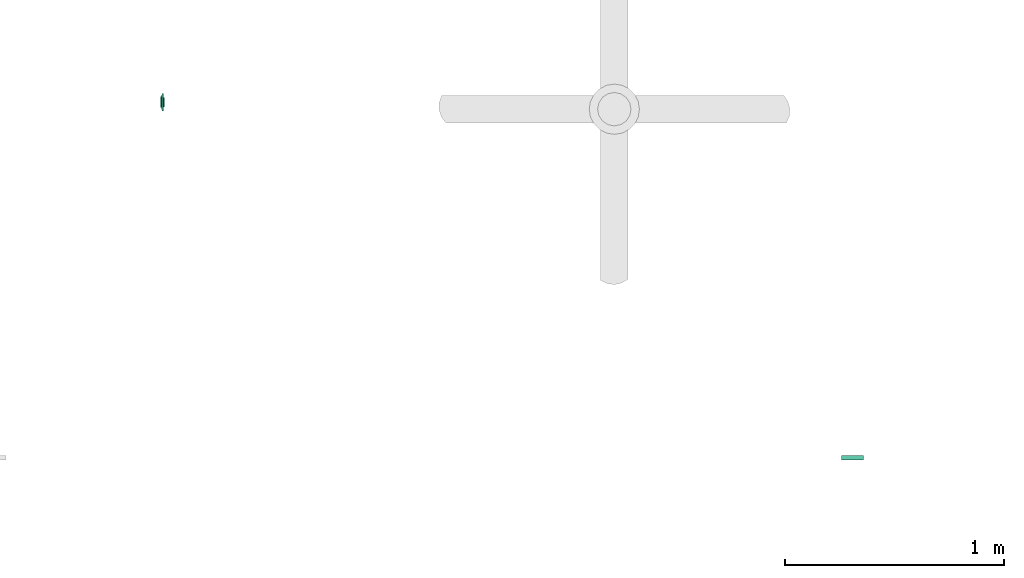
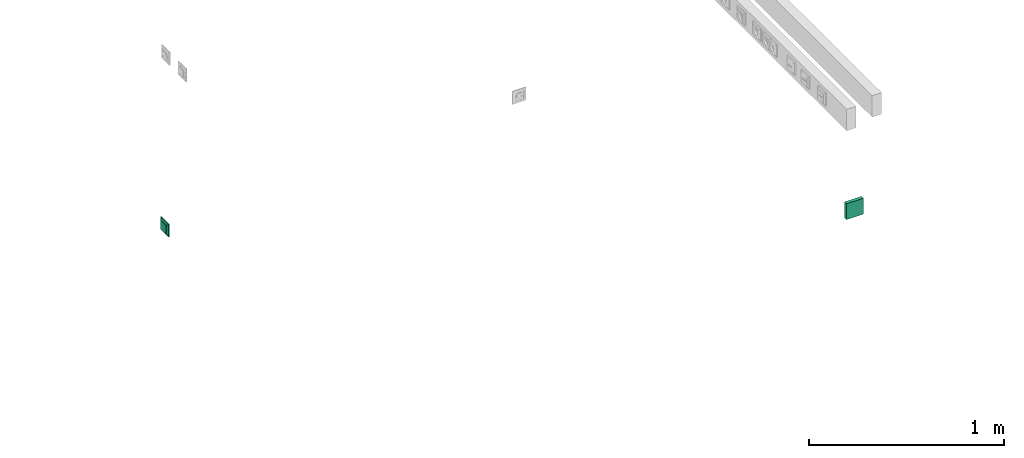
# One storey, part 86 of 166: 2 flow terminals.
"""IFC2X3 building model written with IfcOpenShell, lengths in metres."""

from ifc_helpers import new_model, entity, si_unit, converted_unit, derived_unit, direction, frame, origin, origin_2d_with_axis, place, context, subcontext, project, spatial, rectangle, extrude, faceted_brep, source, transform, mapped, type_object, type_shapes, element, save


model = new_model("IFC2X3")

# Units and contexts
model_context = context("Model", 3, precision=1e-05, world=origin(), true_north=direction((6.12303176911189e-17, 1.0)))
body_context = subcontext(model_context, "Body", "Model", "MODEL_VIEW")
ifc_project = project(units=[si_unit("LENGTHUNIT", "METRE"), si_unit("AREAUNIT", "SQUARE_METRE"), si_unit("VOLUMEUNIT", "CUBIC_METRE"), converted_unit("PLANEANGLEUNIT", "DEGREE", entity("IfcRatioMeasure", 0.0174532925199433), si_unit("PLANEANGLEUNIT", "RADIAN"), dimensions=[0, 0, 0, 0, 0, 0, 0]), si_unit("MASSUNIT", "GRAM", prefix="KILO"), derived_unit("MASSDENSITYUNIT", [(si_unit("MASSUNIT", "GRAM", prefix="KILO"), 1), (si_unit("LENGTHUNIT", "METRE"), -3)]), si_unit("TIMEUNIT", "SECOND"), si_unit("FREQUENCYUNIT", "HERTZ"), si_unit("THERMODYNAMICTEMPERATUREUNIT", "DEGREE_CELSIUS"), derived_unit("THERMALTRANSMITTANCEUNIT", [(si_unit("MASSUNIT", "GRAM", prefix="KILO"), 1), (si_unit("THERMODYNAMICTEMPERATUREUNIT", "KELVIN"), -1), (si_unit("TIMEUNIT", "SECOND"), -3)]), derived_unit("VOLUMETRICFLOWRATEUNIT", [(si_unit("LENGTHUNIT", "METRE"), 3), (si_unit("TIMEUNIT", "SECOND"), -1)]), si_unit("ELECTRICCURRENTUNIT", "AMPERE"), si_unit("ELECTRICVOLTAGEUNIT", "VOLT"), si_unit("POWERUNIT", "WATT"), si_unit("FORCEUNIT", "NEWTON"), si_unit("ILLUMINANCEUNIT", "LUX"), si_unit("LUMINOUSFLUXUNIT", "LUMEN"), si_unit("LUMINOUSINTENSITYUNIT", "CANDELA"), derived_unit("USERDEFINED", [(si_unit("MASSUNIT", "GRAM", prefix="KILO"), -1), (si_unit("LENGTHUNIT", "METRE"), -2), (si_unit("TIMEUNIT", "SECOND"), 3), (si_unit("LUMINOUSFLUXUNIT", "LUMEN"), 1)]), derived_unit("LINEARVELOCITYUNIT", [(si_unit("LENGTHUNIT", "METRE"), 1), (si_unit("TIMEUNIT", "SECOND"), -1)]), si_unit("PRESSUREUNIT", "PASCAL"), derived_unit("USERDEFINED", [(si_unit("LENGTHUNIT", "METRE"), -2), (si_unit("MASSUNIT", "GRAM", prefix="KILO"), 1), (si_unit("TIMEUNIT", "SECOND"), -2)])], contexts=[model_context])

# Site, building, storey
site_placement = place(None, origin())
site = spatial("IfcSite", under=ifc_project, at=site_placement, Name="Default", CompositionType="ELEMENT")
building_placement = place(site_placement, origin())
building = spatial("IfcBuilding", under=site, at=building_placement, CompositionType="ELEMENT")
storey_placement = place(building_placement, frame((0.0, 0.0, 4.27)))
storey = spatial("IfcBuildingStorey", under=building, at=storey_placement, Name="01", CompositionType="ELEMENT", Elevation=4.27)

# Flow terminals
light_fixture_type_1 = type_object("IfcLightFixtureType", Name="Default", PredefinedType="NOTDEFINED")
shared_shape_1 = source(origin(), body_context, "Body", "SweptSolid", [
    extrude(rectangle(XDim=0.1, YDim=0.1, at=origin_2d_with_axis()), frame((0.0, 0.0, 0.0), z_axis=(0.0, 0.0, 1.0), x_axis=(0.0, 1.0, 0.0)), (0.0, 0.0, 1.0), 0.02),
])
type_shapes(light_fixture_type_1, [shared_shape_1])
flow_terminal_1_placement = place(building_placement, frame((52.5782599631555, -193.489651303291, 5.32000000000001), z_axis=(0.0, -1.0, 0.0), x_axis=(1.0, 0.0, 0.0)))
element("IfcFlowTerminal", 1, at=flow_terminal_1_placement, inside=storey, type_object=light_fixture_type_1, Name="E_Reader_Badge 1_F_MEPcontent:Default", ObjectType="E_Reader_Badge 1_F_MEPcontent:Default", context=body_context, shape_type="MappedRepresentation", body=[
    mapped(shared_shape_1, transform((0.0, 0.0, 0.0), scale=1.0)),
])
light_fixture_type_2 = type_object("IfcLightFixtureType", Name="SA IP21", PredefinedType="NOTDEFINED")
shared_shape_2 = source(origin(), body_context, "Body", "Brep", [
    faceted_brep([(0.0, 0.0209999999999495, -0.00460000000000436), (0.00543519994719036, 0.02028444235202, -0.00460000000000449), (0.0105000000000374, 0.0181865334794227, -0.00460000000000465), (0.0148492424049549, 0.014849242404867, -0.00460000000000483), (0.0181865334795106, 0.0104999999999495, -0.00460000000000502), (0.0202844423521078, 0.00543519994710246, -0.00460000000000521), (0.0210000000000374, 0.0, -0.00460000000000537), (0.0202844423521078, -0.00543519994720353, -0.00460000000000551), (0.0181865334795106, -0.0105000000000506, -0.0046000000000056), (0.0148492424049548, -0.0148492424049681, -0.00460000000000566), (0.0105000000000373, -0.0181865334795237, -0.00460000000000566), (0.00543519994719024, -0.0202844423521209, -0.00460000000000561), (0.0, -0.0210000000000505, -0.00460000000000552), (-0.00543519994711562, -0.0202844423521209, -0.00460000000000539), (-0.0104999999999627, -0.0181865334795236, -0.00460000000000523), (-0.0148492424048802, -0.0148492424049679, -0.00460000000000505), (-0.0181865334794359, -0.0105000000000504, -0.00460000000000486), (-0.0202844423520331, -0.00543519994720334, -0.00460000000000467), (-0.0209999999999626, 0.0, -0.00460000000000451), (-0.020284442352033, 0.00543519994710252, -0.00460000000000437), (-0.0181865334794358, 0.0104999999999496, -0.00460000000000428), (-0.0148492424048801, 0.0148492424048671, -0.00460000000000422), (-0.0104999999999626, 0.0181865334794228, -0.00460000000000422), (-0.00543519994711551, 0.02028444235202, -0.00460000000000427), (-0.020284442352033, -0.00543519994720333, 0.0), (-0.0209999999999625, 0.0, 0.0), (-0.0181865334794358, -0.0105000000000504, 0.0), (-0.0104999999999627, -0.0181865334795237, 0.0), (-0.0148492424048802, -0.0148492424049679, 0.0), (-0.00543519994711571, -0.020284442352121, 0.0), (0.0, -0.0210000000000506, 0.0), (0.00543519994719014, -0.0202844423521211, 0.0), (0.0105000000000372, -0.018186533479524, 0.0), (0.0181865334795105, -0.0105000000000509, 0.0), (0.0148492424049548, -0.0148492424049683, 0.0), (0.0202844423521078, -0.00543519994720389, 0.0), (0.0210000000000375, 0.0, 0.0), (0.0202844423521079, 0.00543519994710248, 0.0), (0.0181865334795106, 0.0104999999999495, 0.0), (0.0105000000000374, 0.0181865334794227, 0.0), (0.0148492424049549, 0.014849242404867, 0.0), (0.00543519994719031, 0.0202844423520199, 0.0), (0.0, 0.0209999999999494, 0.0), (-0.00543519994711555, 0.0202844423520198, 0.0), (-0.0104999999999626, 0.0181865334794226, 0.0), (-0.0181865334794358, 0.0104999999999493, 0.0), (-0.0148492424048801, 0.0148492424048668, 0.0), (-0.020284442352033, 0.00543519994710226, 0.0)], [[[0, 1, 2, 3, 4, 5, 6, 7, 8, 9, 10, 11, 12, 13, 14, 15, 16, 17, 18, 19, 20, 21, 22, 23]], [[17, 24, 25, 18]], [[16, 26, 24, 17]], [[27, 28, 15, 14]], [[16, 15, 28, 26]], [[29, 27, 14, 13]], [[30, 29, 13, 12]], [[11, 31, 30, 12]], [[10, 32, 31, 11]], [[33, 34, 9, 8]], [[10, 9, 34, 32]], [[35, 33, 8, 7]], [[36, 35, 7, 6]], [[5, 37, 36, 6]], [[4, 38, 37, 5]], [[39, 40, 3, 2]], [[4, 3, 40, 38]], [[41, 39, 2, 1]], [[42, 41, 1, 0]], [[23, 43, 42, 0]], [[22, 44, 43, 23]], [[45, 46, 21, 20]], [[22, 21, 46, 44]], [[47, 45, 20, 19]], [[25, 47, 19, 18]], [[25, 24, 26, 28, 27, 29, 30, 31, 32, 34, 33, 35, 36, 37, 38, 40, 39, 41, 42, 43, 44, 46, 45, 47]]]),
    faceted_brep([(0.0270000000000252, 0.026999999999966, 0.0103999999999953), (-0.0269999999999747, 0.026999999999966, 0.0103999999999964), (-0.0269999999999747, -0.0270000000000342, 0.0103999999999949), (0.0270000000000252, -0.0270000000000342, 0.0103999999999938), (-0.0254999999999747, 0.0258096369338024, 0.0103999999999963), (0.0255000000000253, 0.0258096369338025, 0.0103999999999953), (0.0255000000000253, -0.0255000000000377, 0.0103999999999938), (-0.0254999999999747, -0.0255000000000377, 0.0103999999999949), (0.0270000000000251, 0.0269999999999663, 0.00199999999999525), (0.0270000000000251, -0.0270000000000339, 0.00199999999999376), (-0.0269999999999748, -0.0270000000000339, 0.00199999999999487), (-0.0269999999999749, 0.0269999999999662, 0.00199999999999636), (0.0255000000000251, 0.0258096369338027, 0.00199999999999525), (-0.0254999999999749, 0.0258096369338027, 0.0019999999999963), (-0.0254999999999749, -0.0255000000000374, 0.00199999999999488), (0.0255000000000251, -0.0255000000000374, 0.00199999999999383)], [[[0, 1, 2, 3], [4, 5, 6, 7]], [[8, 9, 10, 11], [12, 13, 14, 15]], [[1, 0, 8, 11]], [[2, 1, 11, 10]], [[3, 2, 10, 9]], [[0, 3, 9, 8]], [[12, 5, 4, 13]], [[13, 4, 7, 14]], [[14, 7, 6, 15]], [[5, 12, 15, 6]]]),
    faceted_brep([(0.0250000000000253, 0.0253096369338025, 0.00659999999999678), (0.0250000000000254, 0.0253096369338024, 0.0117095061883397), (0.0250000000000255, -0.0245000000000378, 0.0142232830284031), (0.0250000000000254, -0.0250000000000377, 0.0117095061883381), (0.0250000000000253, -0.0250000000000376, 0.00659999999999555), (-0.0249999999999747, 0.0253096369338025, 0.00659999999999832), (-0.0249999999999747, -0.0250000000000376, 0.00659999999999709), (-0.0249999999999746, -0.0250000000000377, 0.0117095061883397), (-0.0249999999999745, -0.0245000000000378, 0.0142232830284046), (-0.0249999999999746, 0.0253096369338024, 0.0117095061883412)], [[[0, 1, 2, 3, 4]], [[5, 6, 7, 8, 9]], [[1, 0, 5, 9]], [[2, 1, 9, 8]], [[3, 2, 8, 7]], [[4, 3, 7, 6]], [[0, 4, 6, 5]]]),
    faceted_brep([(0.027000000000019, 0.0269999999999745, 0.00659999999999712), (-0.0269999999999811, 0.0269999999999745, 0.00659999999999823), (-0.026999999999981, -0.0270000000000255, 0.00659999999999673), (0.027000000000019, -0.0270000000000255, 0.00659999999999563), (0.040350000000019, 0.0403499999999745, 0.00659999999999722), (0.040350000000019, -0.0403500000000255, 0.00659999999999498), (-0.0403499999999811, -0.0403500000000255, 0.00659999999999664), (-0.0403499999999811, 0.0403499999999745, 0.00659999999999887), (-0.026999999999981, 0.0269999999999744, 0.0103999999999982), (0.027000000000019, 0.0269999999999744, 0.0103999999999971), (-0.026999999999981, -0.0270000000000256, 0.0103999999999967), (0.027000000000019, -0.0270000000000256, 0.0103999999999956)], [[[0, 1, 2, 3], [4, 5, 6, 7]], [[4, 7, 8, 9]], [[7, 6, 10, 8]], [[6, 5, 11, 10]], [[5, 4, 9, 11]], [[0, 9, 8, 1]], [[1, 8, 10, 2]], [[2, 10, 11, 3]], [[9, 0, 3, 11]]], outer=[[False, True], [True], [True], [True], [True], [True], [True], [True], [True]]),
    faceted_brep([(0.040350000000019, 0.0403499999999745, 0.00659999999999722), (-0.0403499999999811, 0.0403499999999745, 0.00659999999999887), (-0.0403499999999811, -0.0403500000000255, 0.00659999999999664), (0.040350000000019, -0.0403500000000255, 0.00659999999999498), (-0.0269999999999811, 0.0269999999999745, 0.00659999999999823), (0.0270000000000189, 0.0269999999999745, 0.00659999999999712), (0.0270000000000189, -0.0270000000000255, 0.00659999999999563), (-0.0269999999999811, -0.0270000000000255, 0.00659999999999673), (0.0403500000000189, 0.0403499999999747, 0.0), (0.0403500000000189, -0.0403500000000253, 0.0), (-0.0403499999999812, -0.0403500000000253, 0.0), (-0.0403499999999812, 0.0403499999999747, 0.0), (0.0270000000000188, 0.0269999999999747, 0.0), (-0.0269999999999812, 0.0269999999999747, 0.0), (-0.0269999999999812, -0.0270000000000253, 0.0), (0.0270000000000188, -0.0270000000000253, 0.0)], [[[0, 1, 2, 3], [4, 5, 6, 7]], [[8, 9, 10, 11], [12, 13, 14, 15]], [[1, 0, 8, 11]], [[2, 1, 11, 10]], [[3, 2, 10, 9]], [[0, 3, 9, 8]], [[12, 5, 4, 13]], [[13, 4, 7, 14]], [[14, 7, 6, 15]], [[5, 12, 15, 6]]]),
])
type_shapes(light_fixture_type_2, [shared_shape_2])
flow_terminal_2_placement = place(building_placement, frame((49.4372436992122, -191.87806962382, 5.32000000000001), z_axis=(-1.0, 0.0, 0.0), x_axis=(0.0, -1.0, 0.0)))
element("IfcFlowTerminal", 2, at=flow_terminal_2_placement, inside=storey, type_object=light_fixture_type_2, Name="INT_Inter SA:SA IP21", ObjectType="INT_Inter SA:SA IP21", context=body_context, shape_type="MappedRepresentation", body=[
    mapped(shared_shape_2, transform((0.0, 0.0, 0.0), scale=1.0)),
])

save(model, "model.ifc")
